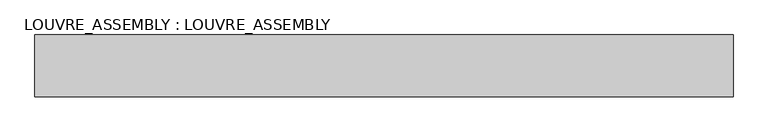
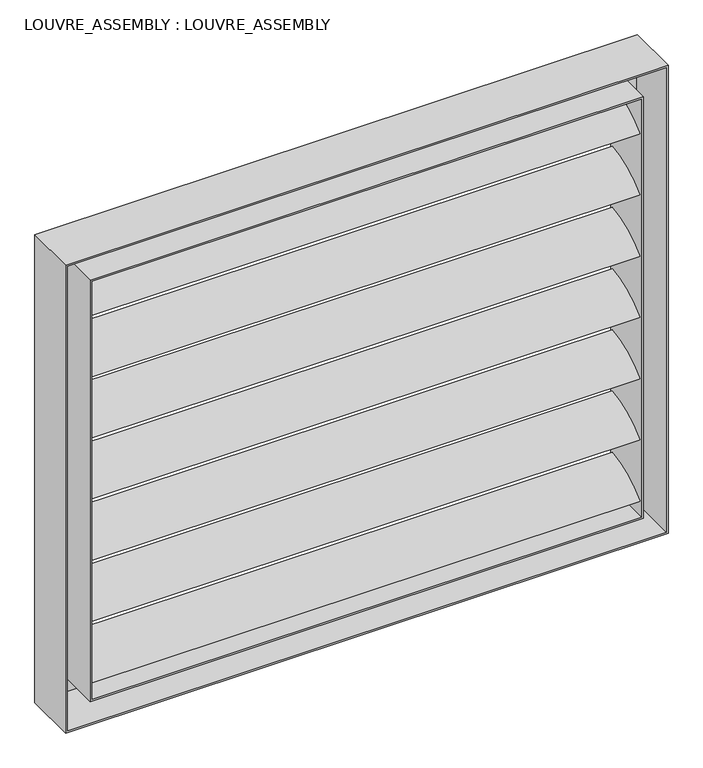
"""IFC4 building model written with IfcOpenShell, lengths in millimetres: plate geometry, LOUVRE_ASSEMBLY : LOUVRE_ASSEMBLY."""

from ifc_helpers import new_model, si_unit, point, frame, frame_2d, origin, place, context, project, spatial, circle_curve, trimmed, segment, composite_curve, outline, extrude, faceted_brep, source, transform, mapped, element, save


def louvre_assembly_louvre_assembly_0edd0d44(model_context):
    return source(origin(), model_context, "Body", "SolidModel", [
        extrude(outline(composite_curve([segment(trimmed(circle_curve(frame_2d((88.749835, 142.1753647)), 222.9910312), [point((-67.973084, 300.8036304))], [point((67.973084, 364.1963696))], False, "CARTESIAN"), True, "CONTINUOUS"), segment(trimmed(circle_curve(frame_2d((-88.749835, 522.8246353)), 222.9910312), [point((67.973084, 364.1963696))], [point((-67.973084, 300.8036304))], False, "CARTESIAN"), True, "CONTINUOUS")], self_intersect=False)), frame((-775.0, 0.0, 0.0), z_axis=(1.0, 0.0, 0.0), x_axis=(0.0, 1.0, 0.0)), (0.0, 0.0, 1.0), 1550.0),
        extrude(outline(composite_curve([segment(trimmed(circle_curve(frame_2d((88.749835, 324.6753647)), 222.9910312), [point((-67.973084, 483.3036304))], [point((67.973084, 546.6963696))], False, "CARTESIAN"), True, "CONTINUOUS"), segment(trimmed(circle_curve(frame_2d((-88.749835, 705.3246353)), 222.9910312), [point((67.973084, 546.6963696))], [point((-67.973084, 483.3036304))], False, "CARTESIAN"), True, "CONTINUOUS")], self_intersect=False)), frame((-775.0, 0.0, 0.0), z_axis=(1.0, 0.0, 0.0), x_axis=(0.0, 1.0, 0.0)), (0.0, 0.0, 1.0), 1550.0),
        extrude(outline(composite_curve([segment(trimmed(circle_curve(frame_2d((88.749835, 507.1753647)), 222.9910312), [point((-67.973084, 665.8036304))], [point((67.973084, 729.1963696))], False, "CARTESIAN"), True, "CONTINUOUS"), segment(trimmed(circle_curve(frame_2d((-88.749835, 887.8246353)), 222.9910312), [point((67.973084, 729.1963696))], [point((-67.973084, 665.8036304))], False, "CARTESIAN"), True, "CONTINUOUS")], self_intersect=False)), frame((-775.0, 0.0, 0.0), z_axis=(1.0, 0.0, 0.0), x_axis=(0.0, 1.0, 0.0)), (0.0, 0.0, 1.0), 1550.0),
        extrude(outline(composite_curve([segment(trimmed(circle_curve(frame_2d((88.749835, 689.6753647)), 222.9910312), [point((-67.973084, 848.3036304))], [point((67.973084, 911.6963696))], False, "CARTESIAN"), True, "CONTINUOUS"), segment(trimmed(circle_curve(frame_2d((-88.749835, 1070.3246353)), 222.9910312), [point((67.973084, 911.6963696))], [point((-67.973084, 848.3036304))], False, "CARTESIAN"), True, "CONTINUOUS")], self_intersect=False)), frame((-775.0, 0.0, 0.0), z_axis=(1.0, 0.0, 0.0), x_axis=(0.0, 1.0, 0.0)), (0.0, 0.0, 1.0), 1550.0),
        extrude(outline(composite_curve([segment(trimmed(circle_curve(frame_2d((88.749835, 872.1753647)), 222.9910312), [point((-67.973084, 1030.8036304))], [point((67.973084, 1094.1963696))], False, "CARTESIAN"), True, "CONTINUOUS"), segment(trimmed(circle_curve(frame_2d((-88.749835, 1252.8246353)), 222.9910312), [point((67.973084, 1094.1963696))], [point((-67.973084, 1030.8036304))], False, "CARTESIAN"), True, "CONTINUOUS")], self_intersect=False)), frame((-775.0, 0.0, 0.0), z_axis=(1.0, 0.0, 0.0), x_axis=(0.0, 1.0, 0.0)), (0.0, 0.0, 1.0), 1550.0),
        extrude(outline(composite_curve([segment(trimmed(circle_curve(frame_2d((88.749835, -40.3246353)), 222.9910312), [point((-67.973084, 118.3036304))], [point((67.973084, 181.6963696))], False, "CARTESIAN"), True, "CONTINUOUS"), segment(trimmed(circle_curve(frame_2d((-88.749835, 340.3246353)), 222.9910312), [point((67.973084, 181.6963696))], [point((-67.973084, 118.3036304))], False, "CARTESIAN"), True, "CONTINUOUS")], self_intersect=False)), frame((-775.0, 0.0, 0.0), z_axis=(1.0, 0.0, 0.0), x_axis=(0.0, 1.0, 0.0)), (0.0, 0.0, 1.0), 1550.0),
        extrude(outline(composite_curve([segment(trimmed(circle_curve(frame_2d((88.749835, 1054.6753647)), 222.9910312), [point((-67.973084, 1213.3036304))], [point((67.973084, 1276.6963696))], False, "CARTESIAN"), True, "CONTINUOUS"), segment(trimmed(circle_curve(frame_2d((-88.749835, 1435.3246353)), 222.9910312), [point((67.973084, 1276.6963696))], [point((-67.973084, 1213.3036304))], False, "CARTESIAN"), True, "CONTINUOUS")], self_intersect=False)), frame((-775.0, 0.0, 0.0), z_axis=(1.0, 0.0, 0.0), x_axis=(0.0, 1.0, 0.0)), (0.0, 0.0, 1.0), 1550.0),
        faceted_brep([(-850.0, 75.0, 1395.0), (-850.0, 75.0, 0.0), (-850.0, -75.0, 0.0), (-850.0, -75.0, 1395.0), (-844.375, -75.0, 1389.375), (-844.375, -75.0, 5.625), (-844.375, 69.375, 5.625), (-844.375, 69.375, 1389.375), (-780.625, 69.375, 1325.625), (-780.625, 69.375, 69.375), (-780.625, -75.0, 69.375), (-780.625, -75.0, 1325.625), (-775.0, -75.0, 1320.0), (-775.0, -75.0, 75.0), (-775.0, 75.0, 75.0), (-775.0, 75.0, 1320.0), (850.0, 75.0, 0.0), (850.0, -75.0, 0.0), (844.375, -75.0, 5.625), (844.375, 69.375, 5.625), (780.625, 69.375, 69.375), (780.625, -75.0, 69.375), (775.0, -75.0, 75.0), (775.0, 75.0, 75.0), (850.0, 75.0, 1395.0), (850.0, -75.0, 1395.0), (844.375, -75.0, 1389.375), (844.375, 69.375, 1389.375), (780.625, 69.375, 1325.625), (780.625, -75.0, 1325.625), (775.0, -75.0, 1320.0), (775.0, 75.0, 1320.0)], [[[0, 1, 2, 3]], [[4, 5, 6, 7]], [[8, 9, 10, 11]], [[12, 13, 14, 15]], [[1, 16, 17, 2]], [[5, 18, 19, 6]], [[9, 20, 21, 10]], [[13, 22, 23, 14]], [[16, 24, 25, 17]], [[18, 26, 27, 19]], [[20, 28, 29, 21]], [[22, 30, 31, 23]], [[24, 0, 3, 25]], [[26, 4, 7, 27]], [[28, 8, 11, 29]], [[30, 12, 15, 31]], [[1, 0, 24, 16], [15, 14, 23, 31]], [[11, 10, 21, 29], [13, 12, 30, 22]], [[7, 6, 19, 27], [9, 8, 28, 20]], [[3, 2, 17, 25], [5, 4, 26, 18]]]),
    ])


if __name__ == "__main__":
    model = new_model("IFC4")
    model_context = context("Model", 3, world=origin())
    ifc_project = project(units=[si_unit("LENGTHUNIT", "METRE", prefix="MILLI")], contexts=[model_context])
    site = spatial("IfcSite", under=ifc_project)
    building = spatial("IfcBuilding", under=site)
    placement = place(None, origin())
    louvre_assembly_louvre_assembly_shape = louvre_assembly_louvre_assembly_0edd0d44(model_context)
    element("IfcPlate", 1, ObjectType="LOUVRE_ASSEMBLY : LOUVRE_ASSEMBLY", at=placement, inside=building, context=model_context, shape_type="MappedRepresentation", body=[
        mapped(louvre_assembly_louvre_assembly_shape, transform((0.0, 0.0, 0.0), x_axis=(1.0, 0.0, 0.0), y_axis=(0.0, 1.0, 0.0), z_axis=(0.0, 0.0, 1.0))),
    ])
    save(model, "model.ifc")
